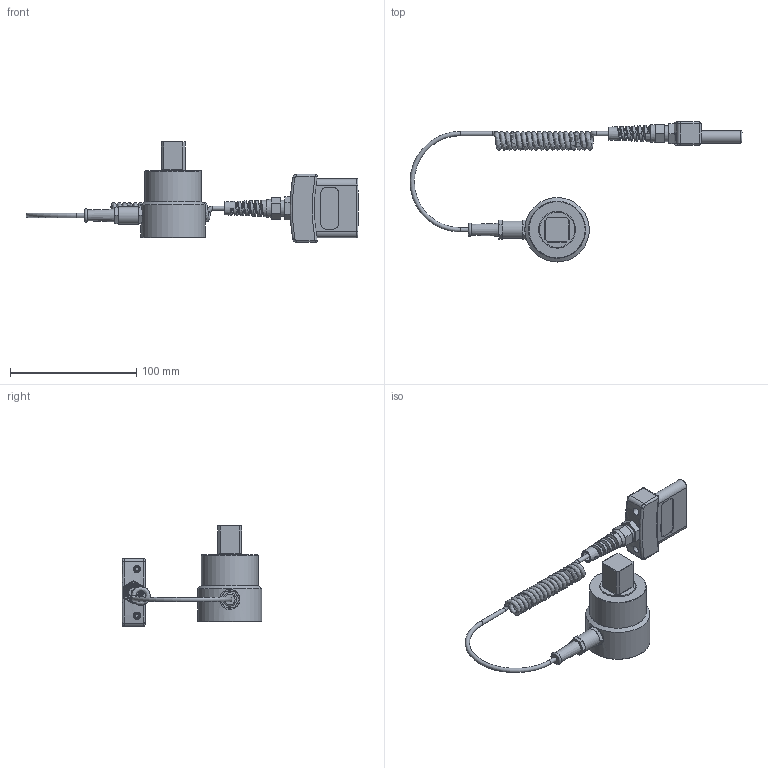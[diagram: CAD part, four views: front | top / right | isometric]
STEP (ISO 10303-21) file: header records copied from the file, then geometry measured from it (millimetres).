
FILE_DESCRIPTION((''),'2;1');
FILE_NAME('F:\CAD files\Itr\3D MARKETING MODELS\TORQUE SENSORS\MR55\MR55_5000.stp','2017-06-20T15:29:44',('mlampen'),(''),'Autodesk Inventor 2010','Autodesk Inventor 2010','');
FILE_SCHEMA(('AUTOMOTIVE_DESIGN { 1 0 10303 214 1 1 1 1 }'));
Length unit declared in the file: inch
Products named in the file (1): Part2
Bounding box: 262.98 x 110.87 x 79.95 mm (x, y, z)
Volume: 143914.8 mm3; surface area: 40482.2 mm2
Topology: 4 solids, 4 shells, 417 faces, 1088 edges, 706 vertices
Faces by surface type: plane 186, cylinder 82, bspline 82, cone 50, torus 13, sphere 4
Full cylindrical faces by diameter (mm): 3.175 x2, 3.429 x3, 4.648 x2, 5.842 x2, 7.62 x6, 11.176 x1, 12.7 x1, 13.716 x1, 27.94 x1, 29.21 x1, 44.958 x1, 51.054 x1
Entity records: 21140 total; most frequent: CARTESIAN_POINT 12151, ORIENTED_EDGE 2036, DIRECTION 1556, EDGE_CURVE 1018, VERTEX_POINT 693, AXIS2_PLACEMENT_3D 595, EDGE_LOOP 487, FACE_OUTER_BOUND 407
